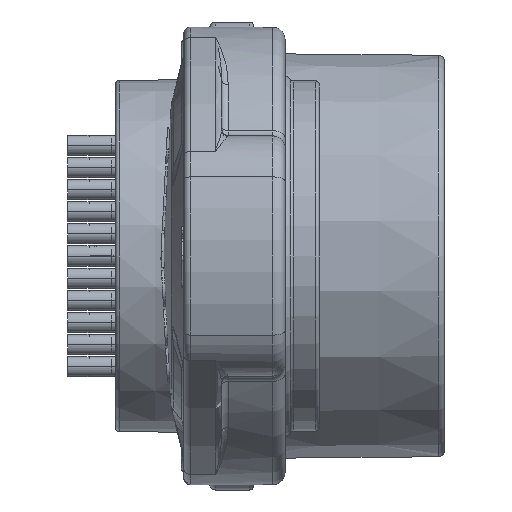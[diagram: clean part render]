
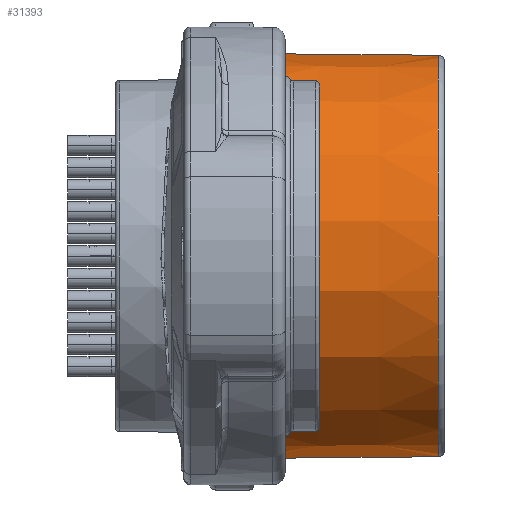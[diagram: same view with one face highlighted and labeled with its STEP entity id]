
A CAD part, front view. The second image highlights one B-rep face of the part: STEP entity #31393.
In plain terms, the highlighted conical face has half-angle 0.5 degrees and reference radius 16 mm.
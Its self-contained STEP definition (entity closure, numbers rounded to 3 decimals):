
#4691 = CARTESIAN_POINT ( 'NONE',  ( -14.604, 0., 0. ) ) ;
#4912 = ORIENTED_EDGE ( 'NONE', *, *, #83746, .T. ) ;
#6864 = AXIS2_PLACEMENT_3D ( 'NONE', #14430, #62940, #41428 ) ;
#7688 = LINE ( 'NONE', #48867, #72979 ) ;
#8644 = AXIS2_PLACEMENT_3D ( 'NONE', #19976, #48802, #35518 ) ;
#9291 = VERTEX_POINT ( 'NONE', #43757 ) ;
#10378 = CIRCLE ( 'NONE', #60020, 15.996 ) ;
#14430 = CARTESIAN_POINT ( 'NONE',  ( -15.1, 0., 0. ) ) ;
#15998 = CARTESIAN_POINT ( 'NONE',  ( -14.604, 0., -15.996 ) ) ;
#19961 = CARTESIAN_POINT ( 'NONE',  ( -15.1, 0., -16. ) ) ;
#19976 = CARTESIAN_POINT ( 'NONE',  ( -0.496, 0., 0. ) ) ;
#22162 = CARTESIAN_POINT ( 'NONE',  ( -0.496, 0., 15.873 ) ) ;
#22750 = ORIENTED_EDGE ( 'NONE', *, *, #79729, .T. ) ;
#22788 = VERTEX_POINT ( 'NONE', #22162 ) ;
#23495 = VERTEX_POINT ( 'NONE', #15998 ) ;
#29253 = EDGE_CURVE ( 'NONE', #9291, #23495, #52931, .T. ) ;
#30926 = ORIENTED_EDGE ( 'NONE', *, *, #80394, .T. ) ;
#31393 = ADVANCED_FACE ( 'NONE', ( #69816 ), #62458, .T. ) ;
#32613 = DIRECTION ( 'NONE',  ( 1., 0., 0. ) ) ;
#35518 = DIRECTION ( 'NONE',  ( 0., 0., -1. ) ) ;
#41428 = DIRECTION ( 'NONE',  ( 0., 0., -1. ) ) ;
#43757 = CARTESIAN_POINT ( 'NONE',  ( -0.496, 0., -15.873 ) ) ;
#46527 = DIRECTION ( 'NONE',  ( -1., 0., -0.009 ) ) ;
#46625 = VECTOR ( 'NONE', #46527, 1000. ) ;
#48802 = DIRECTION ( 'NONE',  ( -1., 0., 0. ) ) ;
#48867 = CARTESIAN_POINT ( 'NONE',  ( -15.1, 0., 16. ) ) ;
#50234 = DIRECTION ( 'NONE',  ( -1., 0., 0.009 ) ) ;
#52931 = LINE ( 'NONE', #19961, #46625 ) ;
#60020 = AXIS2_PLACEMENT_3D ( 'NONE', #4691, #32613, #72928 ) ;
#61944 = ORIENTED_EDGE ( 'NONE', *, *, #29253, .F. ) ;
#62458 = CONICAL_SURFACE ( 'NONE', #6864, 16., 0.009 ) ;
#62940 = DIRECTION ( 'NONE',  ( -1., 0., 0. ) ) ;
#65573 = CARTESIAN_POINT ( 'NONE',  ( -14.604, 0., 15.996 ) ) ;
#66088 = EDGE_LOOP ( 'NONE', ( #22750, #30926, #4912, #61944 ) ) ;
#68721 = VERTEX_POINT ( 'NONE', #65573 ) ;
#69816 = FACE_OUTER_BOUND ( 'NONE', #66088, .T. ) ;
#72928 = DIRECTION ( 'NONE',  ( 0., 0., 1. ) ) ;
#72979 = VECTOR ( 'NONE', #50234, 1000. ) ;
#79729 = EDGE_CURVE ( 'NONE', #9291, #22788, #83146, .T. ) ;
#80394 = EDGE_CURVE ( 'NONE', #22788, #68721, #7688, .T. ) ;
#83146 = CIRCLE ( 'NONE', #8644, 15.873 ) ;
#83746 = EDGE_CURVE ( 'NONE', #68721, #23495, #10378, .T. ) ;
